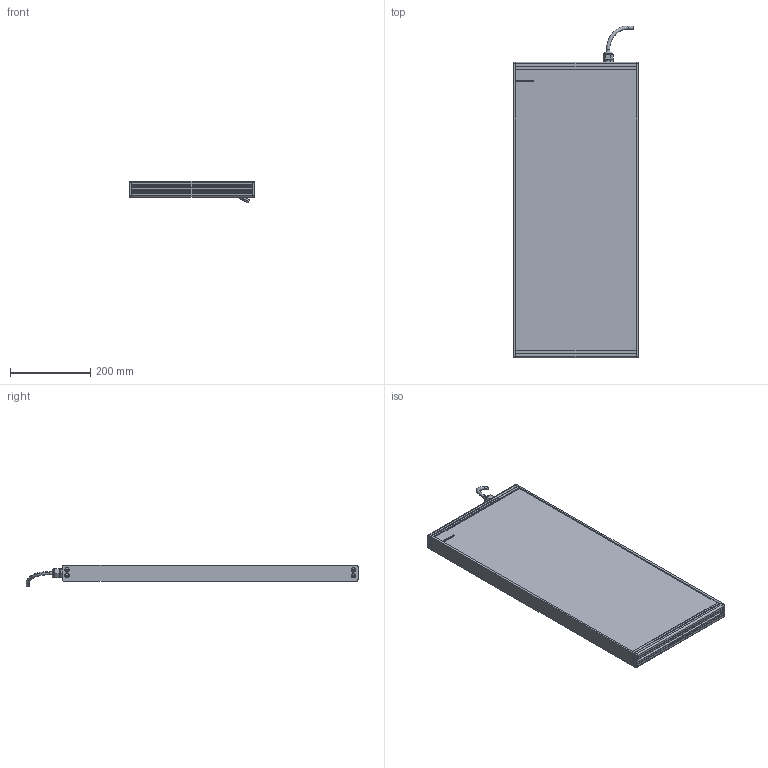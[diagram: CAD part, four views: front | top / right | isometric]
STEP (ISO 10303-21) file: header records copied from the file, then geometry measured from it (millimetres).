
FILE_DESCRIPTION (( 'STEP AP214' ), '1' );
FILE_NAME ('EFFI-BL-300T-700-1M12P.STEP', '2021-06-28T09:24:02', ( '' ), ( '' ), 'SwSTEP 2.0', 'SolidWorks 2021', '' );
FILE_SCHEMA (( 'AUTOMOTIVE_DESIGN' ));
Length unit declared in the file: millimetre
Products named in the file (7): Pièce2^EFFI-BL-XXXT-YYY + M12P; EFFI-BL-300T-700-1M12P; bord fin modif_lg 436.5 mm; profile modif_lg 99.5 mm; M12 power; 003776
Assembly tree (14 placements, depth 2):
  EFFI-BL-300T-700-1M12P
    profile modif_lg 99.5 mm
    bord fin modif_lg 436.5 mm  x2
    Pièce2^EFFI-BL-XXXT-YYY + M12P
    profile modif_lg 99.5 mm
    M12 power
    003776  x8
Bounding box: 310 x 826.45 x 53.92 mm (x, y, z)
Volume: 7902459 mm3; surface area: 719559.4 mm2
Topology: 13 solids, 16 shells, 569 faces, 1446 edges, 927 vertices
Faces by surface type: plane 327, bspline 125, cylinder 95, cone 18, torus 4
Entity records: 15286 total; most frequent: CARTESIAN_POINT 5076, ORIENTED_EDGE 2024, DIRECTION 1720, EDGE_CURVE 1014, VECTOR 756, LINE 756, VERTEX_POINT 670, AXIS2_PLACEMENT_3D 482
